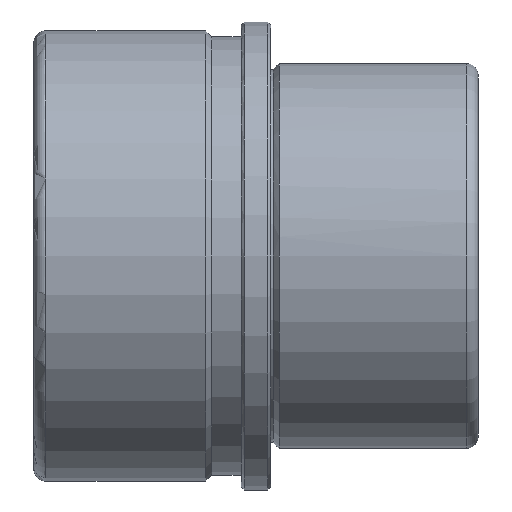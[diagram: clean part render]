
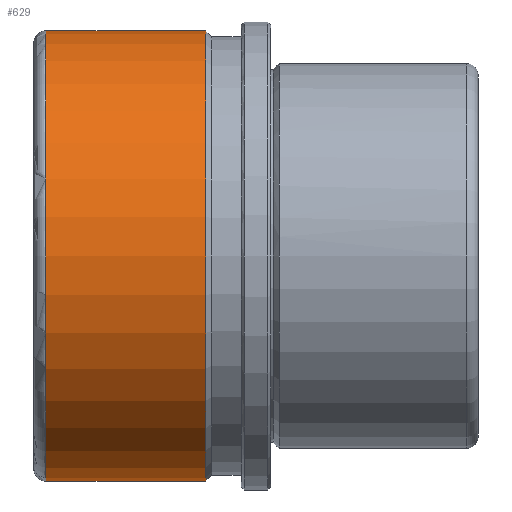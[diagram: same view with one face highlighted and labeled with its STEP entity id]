
A CAD part, front view. The second image highlights one B-rep face of the part: STEP entity #629.
In plain terms, the highlighted cylindrical face has radius 38 mm (diameter 76 mm), a partial arc.
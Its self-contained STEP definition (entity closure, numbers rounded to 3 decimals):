
#414=CARTESIAN_POINT('Line Origine',(35.,0.,38.)) ;
#418=CARTESIAN_POINT('Vertex',(-11.,0.,38.)) ;
#420=CARTESIAN_POINT('Vertex',(-38.,0.,38.)) ;
#434=CARTESIAN_POINT('Vertex',(-11.,0.,-38.)) ;
#437=CARTESIAN_POINT('Line Origine',(35.,0.,-38.)) ;
#441=CARTESIAN_POINT('Vertex',(-38.,0.,-38.)) ;
#592=CARTESIAN_POINT('Axis2P3D Location',(35.,0.,0.)) ;
#597=CARTESIAN_POINT('Axis2P3D Location',(-11.,0.,0.)) ;
#601=CARTESIAN_POINT('Vertex',(-11.,-38.,0.)) ;
#604=CARTESIAN_POINT('Axis2P3D Location',(-11.,0.,0.)) ;
#609=CARTESIAN_POINT('Axis2P3D Location',(-38.,0.,0.)) ;
#613=CARTESIAN_POINT('Vertex',(-38.,-38.,0.)) ;
#616=CARTESIAN_POINT('Axis2P3D Location',(-38.,0.,0.)) ;
#415=DIRECTION('Vector Direction',(-1.,0.,0.)) ;
#438=DIRECTION('Vector Direction',(-1.,0.,0.)) ;
#593=DIRECTION('Axis2P3D Direction',(-1.,-0.,-0.)) ;
#594=DIRECTION('Axis2P3D XDirection',(0.,0.,-1.)) ;
#598=DIRECTION('Axis2P3D Direction',(-1.,-0.,-0.)) ;
#605=DIRECTION('Axis2P3D Direction',(-1.,-0.,-0.)) ;
#610=DIRECTION('Axis2P3D Direction',(-1.,-0.,-0.)) ;
#617=DIRECTION('Axis2P3D Direction',(-1.,-0.,-0.)) ;
#595=AXIS2_PLACEMENT_3D('Cylinder Axis2P3D',#592,#593,#594) ;
#599=AXIS2_PLACEMENT_3D('Circle Axis2P3D',#597,#598,$) ;
#606=AXIS2_PLACEMENT_3D('Circle Axis2P3D',#604,#605,$) ;
#611=AXIS2_PLACEMENT_3D('Circle Axis2P3D',#609,#610,$) ;
#618=AXIS2_PLACEMENT_3D('Circle Axis2P3D',#616,#617,$) ;
#622=ORIENTED_EDGE('',*,*,#443,.T.) ;
#623=ORIENTED_EDGE('',*,*,#603,.F.) ;
#624=ORIENTED_EDGE('',*,*,#608,.F.) ;
#625=ORIENTED_EDGE('',*,*,#422,.T.) ;
#626=ORIENTED_EDGE('',*,*,#615,.T.) ;
#627=ORIENTED_EDGE('',*,*,#620,.T.) ;
#416=VECTOR('Line Direction',#415,1.) ;
#439=VECTOR('Line Direction',#438,1.) ;
#629=ADVANCED_FACE('CF 641 52 x 75',(#628),#596,.T.) ;
#600=CIRCLE('generated circle',#599,38.) ;
#607=CIRCLE('generated circle',#606,38.) ;
#612=CIRCLE('generated circle',#611,38.) ;
#619=CIRCLE('generated circle',#618,38.) ;
#596=CYLINDRICAL_SURFACE('generated cylinder',#595,38.) ;
#422=EDGE_CURVE('',#419,#421,#417,.T.) ;
#443=EDGE_CURVE('',#442,#435,#440,.F.) ;
#603=EDGE_CURVE('',#602,#435,#600,.F.) ;
#608=EDGE_CURVE('',#419,#602,#607,.F.) ;
#615=EDGE_CURVE('',#421,#614,#612,.F.) ;
#620=EDGE_CURVE('',#614,#442,#619,.F.) ;
#621=EDGE_LOOP('',(#622,#623,#624,#625,#626,#627)) ;
#628=FACE_OUTER_BOUND('',#621,.T.) ;
#417=LINE('Line',#414,#416) ;
#440=LINE('Line',#437,#439) ;
#419=VERTEX_POINT('',#418) ;
#421=VERTEX_POINT('',#420) ;
#435=VERTEX_POINT('',#434) ;
#442=VERTEX_POINT('',#441) ;
#602=VERTEX_POINT('',#601) ;
#614=VERTEX_POINT('',#613) ;
